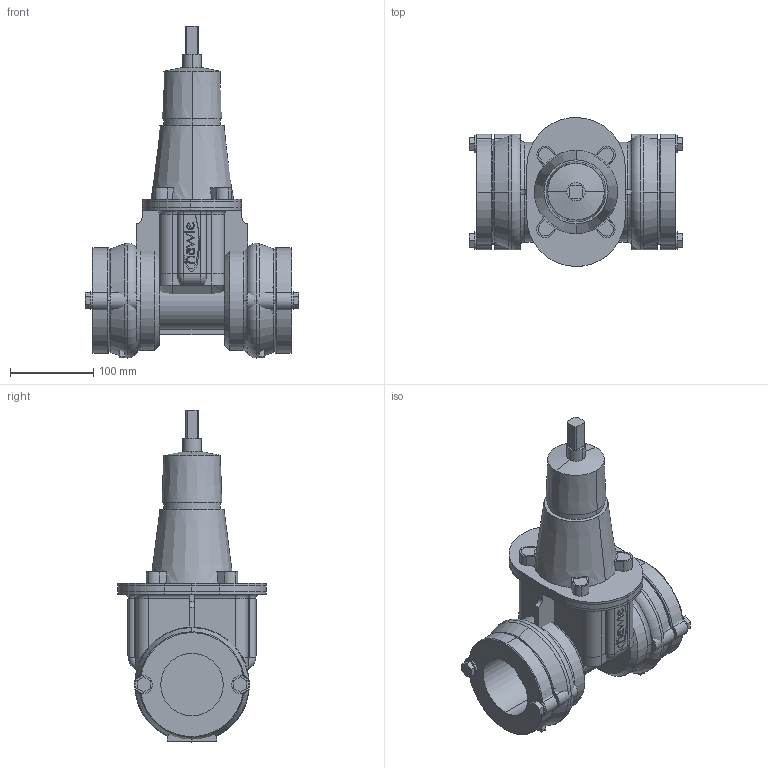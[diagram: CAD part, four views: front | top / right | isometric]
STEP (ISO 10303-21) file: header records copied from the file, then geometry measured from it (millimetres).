
FILE_DESCRIPTION(('STEP AP214'),'1');
FILE_NAME('S:/EK/USER/CAT6/3DHomepage/4040E2/4040E2-PN16-DN65.STP','2012-04-24T10:39:44',(' '),(' '),'Spatial InterOp 3D',' ',' ');
FILE_SCHEMA(('automotive_design'));
Length unit declared in the file: millimetre
Products named in the file (84): 3D-Objekt; 1; 2
Bounding box: 256.8 x 178.95 x 399 mm (x, y, z)
Volume: 4038181 mm3; surface area: 554482.1 mm2
Topology: 84 solids, 84 shells, 670 faces, 1490 edges, 992 vertices
Faces by surface type: plane 376, cylinder 240, torus 36, cone 14, bspline 4
Entity records: 26101 total; most frequent: DIRECTION 3606, CARTESIAN_POINT 3320, ORIENTED_EDGE 2980, EDGE_CURVE 1490, AXIS2_PLACEMENT_3D 1374, VERTEX_POINT 992, LINE 858, VECTOR 858
